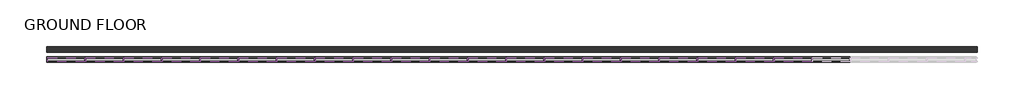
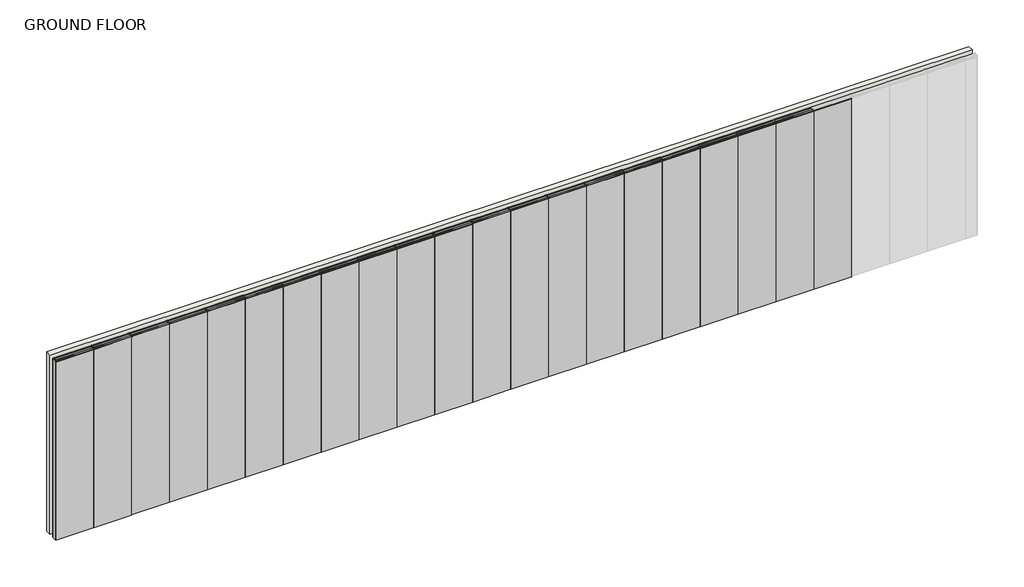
# One storey, part 1 of 2: 60 members, 21 plates, 1 wall.
"""IFC4 building model written with IfcOpenShell, lengths in millimetres."""

from ifc_helpers import new_model, si_unit, origin, origin_with_axes, place, context, project, spatial, polyline, outline, extrude, transform, mapped, element, save
from components import rectangular_mullion_stud_mullion_63mm_af775e70, rectangular_mullion_stud_mullion_63mm_2c4afd4c, rectangular_mullion_stud_mullion_63mm_ab3eab4e, rectangular_mullion_stud_mullion_63mm_08592bac, plate_2_layer_drywall_panels_2_layer_12mm_drywall_panels_e6e5b326

model = new_model("IFC4")

# Units and contexts
model_context = context("Model", 3, world=origin())
ifc_project = project(units=[si_unit("LENGTHUNIT", "METRE", prefix="MILLI")], contexts=[model_context])

# Site, building, storey
site = spatial("IfcSite", under=ifc_project)
building = spatial("IfcBuilding", under=site)
storey = spatial("IfcBuildingStorey", under=building, Name="GROUND FLOOR", Elevation=0.0)

# Members
placement = place(None, origin())
rectangular_mullion_stud_mullion_63mm_shape = rectangular_mullion_stud_mullion_63mm_af775e70(model_context)
element("IfcMember", 1, ObjectType="Rectangular Mullion : Stud Mullion - 63mm", at=placement, inside=storey, context=model_context, shape_type="MappedRepresentation", body=[
    mapped(rectangular_mullion_stud_mullion_63mm_shape, transform((61654.5186508, -25259.4010443, 0.0), x_axis=(0.0, 0.0, -1.0), y_axis=(0.0, -1.0, 0.0), z_axis=(-1.0, 0.0, 0.0))),
])
element("IfcMember", 2, ObjectType="Rectangular Mullion : Stud Mullion - 63mm", at=placement, inside=storey, context=model_context, shape_type="MappedRepresentation", body=[
    mapped(rectangular_mullion_stud_mullion_63mm_shape, transform((62254.5186511, -25259.4010443, 0.0), x_axis=(0.0, 0.0, -1.0), y_axis=(0.0, -1.0, 0.0), z_axis=(-1.0, 0.0, 0.0))),
])
element("IfcMember", 3, ObjectType="Rectangular Mullion : Stud Mullion - 63mm", at=placement, inside=storey, context=model_context, shape_type="MappedRepresentation", body=[
    mapped(rectangular_mullion_stud_mullion_63mm_shape, transform((62854.5186511, -25259.4010443, 0.0), x_axis=(0.0, 0.0, -1.0), y_axis=(0.0, -1.0, 0.0), z_axis=(-1.0, 0.0, 0.0))),
])
element("IfcMember", 4, ObjectType="Rectangular Mullion : Stud Mullion - 63mm", at=placement, inside=storey, context=model_context, shape_type="MappedRepresentation", body=[
    mapped(rectangular_mullion_stud_mullion_63mm_shape, transform((63454.5186511, -25259.4010443, 0.0), x_axis=(0.0, 0.0, -1.0), y_axis=(0.0, -1.0, 0.0), z_axis=(-1.0, 0.0, 0.0))),
])
element("IfcMember", 5, ObjectType="Rectangular Mullion : Stud Mullion - 63mm", at=placement, inside=storey, context=model_context, shape_type="MappedRepresentation", body=[
    mapped(rectangular_mullion_stud_mullion_63mm_shape, transform((64054.5186511, -25259.4010443, 0.0), x_axis=(0.0, 0.0, -1.0), y_axis=(0.0, -1.0, 0.0), z_axis=(-1.0, 0.0, 0.0))),
])
element("IfcMember", 6, ObjectType="Rectangular Mullion : Stud Mullion - 63mm", at=placement, inside=storey, context=model_context, shape_type="MappedRepresentation", body=[
    mapped(rectangular_mullion_stud_mullion_63mm_shape, transform((64654.5186511, -25259.4010443, 0.0), x_axis=(0.0, 0.0, -1.0), y_axis=(0.0, -1.0, 0.0), z_axis=(-1.0, 0.0, 0.0))),
])
element("IfcMember", 7, ObjectType="Rectangular Mullion : Stud Mullion - 63mm", at=placement, inside=storey, context=model_context, shape_type="MappedRepresentation", body=[
    mapped(rectangular_mullion_stud_mullion_63mm_shape, transform((65254.5186511, -25259.4010443, 0.0), x_axis=(0.0, 0.0, -1.0), y_axis=(0.0, -1.0, 0.0), z_axis=(-1.0, 0.0, 0.0))),
])
element("IfcMember", 8, ObjectType="Rectangular Mullion : Stud Mullion - 63mm", at=placement, inside=storey, context=model_context, shape_type="MappedRepresentation", body=[
    mapped(rectangular_mullion_stud_mullion_63mm_shape, transform((65854.5186511, -25259.4010443, 0.0), x_axis=(0.0, 0.0, -1.0), y_axis=(0.0, -1.0, 0.0), z_axis=(-1.0, 0.0, 0.0))),
])
element("IfcMember", 9, ObjectType="Rectangular Mullion : Stud Mullion - 63mm", at=placement, inside=storey, context=model_context, shape_type="MappedRepresentation", body=[
    mapped(rectangular_mullion_stud_mullion_63mm_shape, transform((66454.5186511, -25259.4010443, 0.0), x_axis=(0.0, 0.0, -1.0), y_axis=(0.0, -1.0, 0.0), z_axis=(-1.0, 0.0, 0.0))),
])
element("IfcMember", 10, ObjectType="Rectangular Mullion : Stud Mullion - 63mm", at=placement, inside=storey, context=model_context, shape_type="MappedRepresentation", body=[
    mapped(rectangular_mullion_stud_mullion_63mm_shape, transform((67054.5186511, -25259.4010443, 0.0), x_axis=(0.0, 0.0, -1.0), y_axis=(0.0, -1.0, 0.0), z_axis=(-1.0, 0.0, 0.0))),
])
element("IfcMember", 11, ObjectType="Rectangular Mullion : Stud Mullion - 63mm", at=placement, inside=storey, context=model_context, shape_type="MappedRepresentation", body=[
    mapped(rectangular_mullion_stud_mullion_63mm_shape, transform((67654.5186511, -25259.4010443, 0.0), x_axis=(0.0, 0.0, -1.0), y_axis=(0.0, -1.0, 0.0), z_axis=(-1.0, 0.0, 0.0))),
])
element("IfcMember", 12, ObjectType="Rectangular Mullion : Stud Mullion - 63mm", at=placement, inside=storey, context=model_context, shape_type="MappedRepresentation", body=[
    mapped(rectangular_mullion_stud_mullion_63mm_shape, transform((68254.5186511, -25259.4010443, 0.0), x_axis=(0.0, 0.0, -1.0), y_axis=(0.0, -1.0, 0.0), z_axis=(-1.0, 0.0, 0.0))),
])
element("IfcMember", 13, ObjectType="Rectangular Mullion : Stud Mullion - 63mm", at=placement, inside=storey, context=model_context, shape_type="MappedRepresentation", body=[
    mapped(rectangular_mullion_stud_mullion_63mm_shape, transform((68854.5186511, -25259.4010443, 0.0), x_axis=(0.0, 0.0, -1.0), y_axis=(0.0, -1.0, 0.0), z_axis=(-1.0, 0.0, 0.0))),
])
element("IfcMember", 14, ObjectType="Rectangular Mullion : Stud Mullion - 63mm", at=placement, inside=storey, context=model_context, shape_type="MappedRepresentation", body=[
    mapped(rectangular_mullion_stud_mullion_63mm_shape, transform((69454.5186511, -25259.4010443, 0.0), x_axis=(0.0, 0.0, -1.0), y_axis=(0.0, -1.0, 0.0), z_axis=(-1.0, 0.0, 0.0))),
])
element("IfcMember", 15, ObjectType="Rectangular Mullion : Stud Mullion - 63mm", at=placement, inside=storey, context=model_context, shape_type="MappedRepresentation", body=[
    mapped(rectangular_mullion_stud_mullion_63mm_shape, transform((70054.5186511, -25259.4010443, 0.0), x_axis=(0.0, 0.0, -1.0), y_axis=(0.0, -1.0, 0.0), z_axis=(-1.0, 0.0, 0.0))),
])
element("IfcMember", 16, ObjectType="Rectangular Mullion : Stud Mullion - 63mm", at=placement, inside=storey, context=model_context, shape_type="MappedRepresentation", body=[
    mapped(rectangular_mullion_stud_mullion_63mm_shape, transform((70654.5186511, -25259.4010443, 0.0), x_axis=(0.0, 0.0, -1.0), y_axis=(0.0, -1.0, 0.0), z_axis=(-1.0, 0.0, 0.0))),
])
element("IfcMember", 17, ObjectType="Rectangular Mullion : Stud Mullion - 63mm", at=placement, inside=storey, context=model_context, shape_type="MappedRepresentation", body=[
    mapped(rectangular_mullion_stud_mullion_63mm_shape, transform((71254.5186511, -25259.4010443, 0.0), x_axis=(0.0, 0.0, -1.0), y_axis=(0.0, -1.0, 0.0), z_axis=(-1.0, 0.0, 0.0))),
])
element("IfcMember", 18, ObjectType="Rectangular Mullion : Stud Mullion - 63mm", at=placement, inside=storey, context=model_context, shape_type="MappedRepresentation", body=[
    mapped(rectangular_mullion_stud_mullion_63mm_shape, transform((71854.5186511, -25259.4010443, 0.0), x_axis=(0.0, 0.0, -1.0), y_axis=(0.0, -1.0, 0.0), z_axis=(-1.0, 0.0, 0.0))),
])
element("IfcMember", 19, ObjectType="Rectangular Mullion : Stud Mullion - 63mm", at=placement, inside=storey, context=model_context, shape_type="MappedRepresentation", body=[
    mapped(rectangular_mullion_stud_mullion_63mm_shape, transform((72454.5186511, -25259.4010443, 0.0), x_axis=(0.0, 0.0, -1.0), y_axis=(0.0, -1.0, 0.0), z_axis=(-1.0, 0.0, 0.0))),
])
element("IfcMember", 20, ObjectType="Rectangular Mullion : Stud Mullion - 63mm", at=placement, inside=storey, context=model_context, shape_type="MappedRepresentation", body=[
    mapped(rectangular_mullion_stud_mullion_63mm_shape, transform((73054.5186511, -25259.4010443, 0.0), x_axis=(0.0, 0.0, -1.0), y_axis=(0.0, -1.0, 0.0), z_axis=(-1.0, 0.0, 0.0))),
])
element("IfcMember", 21, ObjectType="Rectangular Mullion : Stud Mullion - 63mm", at=placement, inside=storey, context=model_context, shape_type="MappedRepresentation", body=[
    mapped(rectangular_mullion_stud_mullion_63mm_shape, transform((73654.5186511, -25259.4010443, 0.0), x_axis=(0.0, 0.0, -1.0), y_axis=(0.0, -1.0, 0.0), z_axis=(-1.0, 0.0, 0.0))),
])
rectangular_mullion_stud_mullion_63mm_2_shape = rectangular_mullion_stud_mullion_63mm_2c4afd4c(model_context)
element("IfcMember", 22, ObjectType="Rectangular Mullion : Stud Mullion - 63mm", at=placement, inside=storey, context=model_context, shape_type="MappedRepresentation", body=[
    mapped(rectangular_mullion_stud_mullion_63mm_2_shape, transform((61635.5186508, -25259.4010443, 3000.0), x_axis=(-1.0, 0.0, 0.0), y_axis=(0.0, -1.0, 0.0), z_axis=(0.0, 0.0, 1.0))),
])
rectangular_mullion_stud_mullion_63mm_3_shape = rectangular_mullion_stud_mullion_63mm_ab3eab4e(model_context)
element("IfcMember", 23, ObjectType="Rectangular Mullion : Stud Mullion - 63mm", at=placement, inside=storey, context=model_context, shape_type="MappedRepresentation", body=[
    mapped(rectangular_mullion_stud_mullion_63mm_3_shape, transform((62235.5186511, -25259.4010443, 3000.0), x_axis=(0.0, 0.0, 1.0), y_axis=(0.0, -1.0, 0.0), z_axis=(1.0, 0.0, 0.0))),
])
element("IfcMember", 24, ObjectType="Rectangular Mullion : Stud Mullion - 63mm", at=placement, inside=storey, context=model_context, shape_type="MappedRepresentation", body=[
    mapped(rectangular_mullion_stud_mullion_63mm_3_shape, transform((62835.5186511, -25259.4010443, 3000.0), x_axis=(0.0, 0.0, 1.0), y_axis=(0.0, -1.0, 0.0), z_axis=(1.0, 0.0, 0.0))),
])
element("IfcMember", 25, ObjectType="Rectangular Mullion : Stud Mullion - 63mm", at=placement, inside=storey, context=model_context, shape_type="MappedRepresentation", body=[
    mapped(rectangular_mullion_stud_mullion_63mm_3_shape, transform((63435.5186511, -25259.4010443, 3000.0), x_axis=(0.0, 0.0, 1.0), y_axis=(0.0, -1.0, 0.0), z_axis=(1.0, 0.0, 0.0))),
])
element("IfcMember", 26, ObjectType="Rectangular Mullion : Stud Mullion - 63mm", at=placement, inside=storey, context=model_context, shape_type="MappedRepresentation", body=[
    mapped(rectangular_mullion_stud_mullion_63mm_3_shape, transform((64035.5186511, -25259.4010443, 3000.0), x_axis=(0.0, 0.0, 1.0), y_axis=(0.0, -1.0, 0.0), z_axis=(1.0, 0.0, 0.0))),
])
element("IfcMember", 27, ObjectType="Rectangular Mullion : Stud Mullion - 63mm", at=placement, inside=storey, context=model_context, shape_type="MappedRepresentation", body=[
    mapped(rectangular_mullion_stud_mullion_63mm_3_shape, transform((64635.5186511, -25259.4010443, 3000.0), x_axis=(0.0, 0.0, 1.0), y_axis=(0.0, -1.0, 0.0), z_axis=(1.0, 0.0, 0.0))),
])
element("IfcMember", 28, ObjectType="Rectangular Mullion : Stud Mullion - 63mm", at=placement, inside=storey, context=model_context, shape_type="MappedRepresentation", body=[
    mapped(rectangular_mullion_stud_mullion_63mm_3_shape, transform((65235.5186511, -25259.4010443, 3000.0), x_axis=(0.0, 0.0, 1.0), y_axis=(0.0, -1.0, 0.0), z_axis=(1.0, 0.0, 0.0))),
])
element("IfcMember", 29, ObjectType="Rectangular Mullion : Stud Mullion - 63mm", at=placement, inside=storey, context=model_context, shape_type="MappedRepresentation", body=[
    mapped(rectangular_mullion_stud_mullion_63mm_3_shape, transform((65835.5186511, -25259.4010443, 3000.0), x_axis=(0.0, 0.0, 1.0), y_axis=(0.0, -1.0, 0.0), z_axis=(1.0, 0.0, 0.0))),
])
element("IfcMember", 30, ObjectType="Rectangular Mullion : Stud Mullion - 63mm", at=placement, inside=storey, context=model_context, shape_type="MappedRepresentation", body=[
    mapped(rectangular_mullion_stud_mullion_63mm_3_shape, transform((66435.5186511, -25259.4010443, 3000.0), x_axis=(0.0, 0.0, 1.0), y_axis=(0.0, -1.0, 0.0), z_axis=(1.0, 0.0, 0.0))),
])
element("IfcMember", 31, ObjectType="Rectangular Mullion : Stud Mullion - 63mm", at=placement, inside=storey, context=model_context, shape_type="MappedRepresentation", body=[
    mapped(rectangular_mullion_stud_mullion_63mm_3_shape, transform((67035.5186511, -25259.4010443, 3000.0), x_axis=(0.0, 0.0, 1.0), y_axis=(0.0, -1.0, 0.0), z_axis=(1.0, 0.0, 0.0))),
])
element("IfcMember", 32, ObjectType="Rectangular Mullion : Stud Mullion - 63mm", at=placement, inside=storey, context=model_context, shape_type="MappedRepresentation", body=[
    mapped(rectangular_mullion_stud_mullion_63mm_3_shape, transform((67635.5186511, -25259.4010443, 3000.0), x_axis=(0.0, 0.0, 1.0), y_axis=(0.0, -1.0, 0.0), z_axis=(1.0, 0.0, 0.0))),
])
element("IfcMember", 33, ObjectType="Rectangular Mullion : Stud Mullion - 63mm", at=placement, inside=storey, context=model_context, shape_type="MappedRepresentation", body=[
    mapped(rectangular_mullion_stud_mullion_63mm_3_shape, transform((68235.5186511, -25259.4010443, 3000.0), x_axis=(0.0, 0.0, 1.0), y_axis=(0.0, -1.0, 0.0), z_axis=(1.0, 0.0, 0.0))),
])
element("IfcMember", 34, ObjectType="Rectangular Mullion : Stud Mullion - 63mm", at=placement, inside=storey, context=model_context, shape_type="MappedRepresentation", body=[
    mapped(rectangular_mullion_stud_mullion_63mm_3_shape, transform((68835.5186511, -25259.4010443, 3000.0), x_axis=(0.0, 0.0, 1.0), y_axis=(0.0, -1.0, 0.0), z_axis=(1.0, 0.0, 0.0))),
])
element("IfcMember", 35, ObjectType="Rectangular Mullion : Stud Mullion - 63mm", at=placement, inside=storey, context=model_context, shape_type="MappedRepresentation", body=[
    mapped(rectangular_mullion_stud_mullion_63mm_3_shape, transform((69435.5186511, -25259.4010443, 3000.0), x_axis=(0.0, 0.0, 1.0), y_axis=(0.0, -1.0, 0.0), z_axis=(1.0, 0.0, 0.0))),
])
element("IfcMember", 36, ObjectType="Rectangular Mullion : Stud Mullion - 63mm", at=placement, inside=storey, context=model_context, shape_type="MappedRepresentation", body=[
    mapped(rectangular_mullion_stud_mullion_63mm_3_shape, transform((70035.5186511, -25259.4010443, 3000.0), x_axis=(0.0, 0.0, 1.0), y_axis=(0.0, -1.0, 0.0), z_axis=(1.0, 0.0, 0.0))),
])
element("IfcMember", 37, ObjectType="Rectangular Mullion : Stud Mullion - 63mm", at=placement, inside=storey, context=model_context, shape_type="MappedRepresentation", body=[
    mapped(rectangular_mullion_stud_mullion_63mm_3_shape, transform((70635.5186511, -25259.4010443, 3000.0), x_axis=(0.0, 0.0, 1.0), y_axis=(0.0, -1.0, 0.0), z_axis=(1.0, 0.0, 0.0))),
])
element("IfcMember", 38, ObjectType="Rectangular Mullion : Stud Mullion - 63mm", at=placement, inside=storey, context=model_context, shape_type="MappedRepresentation", body=[
    mapped(rectangular_mullion_stud_mullion_63mm_3_shape, transform((71235.5186511, -25259.4010443, 3000.0), x_axis=(0.0, 0.0, 1.0), y_axis=(0.0, -1.0, 0.0), z_axis=(1.0, 0.0, 0.0))),
])
element("IfcMember", 39, ObjectType="Rectangular Mullion : Stud Mullion - 63mm", at=placement, inside=storey, context=model_context, shape_type="MappedRepresentation", body=[
    mapped(rectangular_mullion_stud_mullion_63mm_3_shape, transform((71835.5186511, -25259.4010443, 3000.0), x_axis=(0.0, 0.0, 1.0), y_axis=(0.0, -1.0, 0.0), z_axis=(1.0, 0.0, 0.0))),
])
element("IfcMember", 40, ObjectType="Rectangular Mullion : Stud Mullion - 63mm", at=placement, inside=storey, context=model_context, shape_type="MappedRepresentation", body=[
    mapped(rectangular_mullion_stud_mullion_63mm_3_shape, transform((72435.5186511, -25259.4010443, 3000.0), x_axis=(0.0, 0.0, 1.0), y_axis=(0.0, -1.0, 0.0), z_axis=(1.0, 0.0, 0.0))),
])
element("IfcMember", 41, ObjectType="Rectangular Mullion : Stud Mullion - 63mm", at=placement, inside=storey, context=model_context, shape_type="MappedRepresentation", body=[
    mapped(rectangular_mullion_stud_mullion_63mm_3_shape, transform((73035.5186511, -25259.4010443, 3000.0), x_axis=(0.0, 0.0, 1.0), y_axis=(0.0, -1.0, 0.0), z_axis=(1.0, 0.0, 0.0))),
])
element("IfcMember", 42, ObjectType="Rectangular Mullion : Stud Mullion - 63mm", at=placement, inside=storey, context=model_context, shape_type="MappedRepresentation", body=[
    mapped(rectangular_mullion_stud_mullion_63mm_3_shape, transform((73635.5186511, -25259.4010443, 3000.0), x_axis=(0.0, 0.0, 1.0), y_axis=(0.0, -1.0, 0.0), z_axis=(1.0, 0.0, 0.0))),
])
rectangular_mullion_stud_mullion_63mm_4_shape = rectangular_mullion_stud_mullion_63mm_08592bac(model_context)
element("IfcMember", 43, ObjectType="Rectangular Mullion : Stud Mullion - 63mm", at=placement, inside=storey, context=model_context, shape_type="MappedRepresentation", body=[
    mapped(rectangular_mullion_stud_mullion_63mm_4_shape, transform((62245.0186511, -25259.4010443, 0.0), x_axis=(1.0, 0.0, 0.0), y_axis=(0.0, -1.0, 0.0), z_axis=(0.0, 0.0, -1.0))),
])
element("IfcMember", 44, ObjectType="Rectangular Mullion : Stud Mullion - 63mm", at=placement, inside=storey, context=model_context, shape_type="MappedRepresentation", body=[
    mapped(rectangular_mullion_stud_mullion_63mm_4_shape, transform((62845.0186511, -25259.4010443, 0.0), x_axis=(1.0, 0.0, 0.0), y_axis=(0.0, -1.0, 0.0), z_axis=(0.0, 0.0, -1.0))),
])
element("IfcMember", 45, ObjectType="Rectangular Mullion : Stud Mullion - 63mm", at=placement, inside=storey, context=model_context, shape_type="MappedRepresentation", body=[
    mapped(rectangular_mullion_stud_mullion_63mm_4_shape, transform((63445.0186511, -25259.4010443, 0.0), x_axis=(1.0, 0.0, 0.0), y_axis=(0.0, -1.0, 0.0), z_axis=(0.0, 0.0, -1.0))),
])
element("IfcMember", 46, ObjectType="Rectangular Mullion : Stud Mullion - 63mm", at=placement, inside=storey, context=model_context, shape_type="MappedRepresentation", body=[
    mapped(rectangular_mullion_stud_mullion_63mm_4_shape, transform((64045.0186511, -25259.4010443, 0.0), x_axis=(1.0, 0.0, 0.0), y_axis=(0.0, -1.0, 0.0), z_axis=(0.0, 0.0, -1.0))),
])
element("IfcMember", 47, ObjectType="Rectangular Mullion : Stud Mullion - 63mm", at=placement, inside=storey, context=model_context, shape_type="MappedRepresentation", body=[
    mapped(rectangular_mullion_stud_mullion_63mm_4_shape, transform((64645.0186511, -25259.4010443, 0.0), x_axis=(1.0, 0.0, 0.0), y_axis=(0.0, -1.0, 0.0), z_axis=(0.0, 0.0, -1.0))),
])
element("IfcMember", 48, ObjectType="Rectangular Mullion : Stud Mullion - 63mm", at=placement, inside=storey, context=model_context, shape_type="MappedRepresentation", body=[
    mapped(rectangular_mullion_stud_mullion_63mm_4_shape, transform((65245.0186511, -25259.4010443, 0.0), x_axis=(1.0, 0.0, 0.0), y_axis=(0.0, -1.0, 0.0), z_axis=(0.0, 0.0, -1.0))),
])
element("IfcMember", 49, ObjectType="Rectangular Mullion : Stud Mullion - 63mm", at=placement, inside=storey, context=model_context, shape_type="MappedRepresentation", body=[
    mapped(rectangular_mullion_stud_mullion_63mm_4_shape, transform((65845.0186511, -25259.4010443, 0.0), x_axis=(1.0, 0.0, 0.0), y_axis=(0.0, -1.0, 0.0), z_axis=(0.0, 0.0, -1.0))),
])
element("IfcMember", 50, ObjectType="Rectangular Mullion : Stud Mullion - 63mm", at=placement, inside=storey, context=model_context, shape_type="MappedRepresentation", body=[
    mapped(rectangular_mullion_stud_mullion_63mm_4_shape, transform((66445.0186511, -25259.4010443, 0.0), x_axis=(1.0, 0.0, 0.0), y_axis=(0.0, -1.0, 0.0), z_axis=(0.0, 0.0, -1.0))),
])
element("IfcMember", 51, ObjectType="Rectangular Mullion : Stud Mullion - 63mm", at=placement, inside=storey, context=model_context, shape_type="MappedRepresentation", body=[
    mapped(rectangular_mullion_stud_mullion_63mm_4_shape, transform((67045.0186511, -25259.4010443, 0.0), x_axis=(1.0, 0.0, 0.0), y_axis=(0.0, -1.0, 0.0), z_axis=(0.0, 0.0, -1.0))),
])
element("IfcMember", 52, ObjectType="Rectangular Mullion : Stud Mullion - 63mm", at=placement, inside=storey, context=model_context, shape_type="MappedRepresentation", body=[
    mapped(rectangular_mullion_stud_mullion_63mm_4_shape, transform((67645.0186511, -25259.4010443, 0.0), x_axis=(1.0, 0.0, 0.0), y_axis=(0.0, -1.0, 0.0), z_axis=(0.0, 0.0, -1.0))),
])
element("IfcMember", 53, ObjectType="Rectangular Mullion : Stud Mullion - 63mm", at=placement, inside=storey, context=model_context, shape_type="MappedRepresentation", body=[
    mapped(rectangular_mullion_stud_mullion_63mm_4_shape, transform((68245.0186511, -25259.4010443, 0.0), x_axis=(1.0, 0.0, 0.0), y_axis=(0.0, -1.0, 0.0), z_axis=(0.0, 0.0, -1.0))),
])
element("IfcMember", 54, ObjectType="Rectangular Mullion : Stud Mullion - 63mm", at=placement, inside=storey, context=model_context, shape_type="MappedRepresentation", body=[
    mapped(rectangular_mullion_stud_mullion_63mm_4_shape, transform((68845.0186511, -25259.4010443, 0.0), x_axis=(1.0, 0.0, 0.0), y_axis=(0.0, -1.0, 0.0), z_axis=(0.0, 0.0, -1.0))),
])
element("IfcMember", 55, ObjectType="Rectangular Mullion : Stud Mullion - 63mm", at=placement, inside=storey, context=model_context, shape_type="MappedRepresentation", body=[
    mapped(rectangular_mullion_stud_mullion_63mm_4_shape, transform((69445.0186511, -25259.4010443, 0.0), x_axis=(1.0, 0.0, 0.0), y_axis=(0.0, -1.0, 0.0), z_axis=(0.0, 0.0, -1.0))),
])
element("IfcMember", 56, ObjectType="Rectangular Mullion : Stud Mullion - 63mm", at=placement, inside=storey, context=model_context, shape_type="MappedRepresentation", body=[
    mapped(rectangular_mullion_stud_mullion_63mm_4_shape, transform((70045.0186511, -25259.4010443, 0.0), x_axis=(1.0, 0.0, 0.0), y_axis=(0.0, -1.0, 0.0), z_axis=(0.0, 0.0, -1.0))),
])
element("IfcMember", 57, ObjectType="Rectangular Mullion : Stud Mullion - 63mm", at=placement, inside=storey, context=model_context, shape_type="MappedRepresentation", body=[
    mapped(rectangular_mullion_stud_mullion_63mm_4_shape, transform((70645.0186511, -25259.4010443, 0.0), x_axis=(1.0, 0.0, 0.0), y_axis=(0.0, -1.0, 0.0), z_axis=(0.0, 0.0, -1.0))),
])
element("IfcMember", 58, ObjectType="Rectangular Mullion : Stud Mullion - 63mm", at=placement, inside=storey, context=model_context, shape_type="MappedRepresentation", body=[
    mapped(rectangular_mullion_stud_mullion_63mm_4_shape, transform((71245.0186511, -25259.4010443, 0.0), x_axis=(1.0, 0.0, 0.0), y_axis=(0.0, -1.0, 0.0), z_axis=(0.0, 0.0, -1.0))),
])
element("IfcMember", 59, ObjectType="Rectangular Mullion : Stud Mullion - 63mm", at=placement, inside=storey, context=model_context, shape_type="MappedRepresentation", body=[
    mapped(rectangular_mullion_stud_mullion_63mm_4_shape, transform((71845.0186511, -25259.4010443, 0.0), x_axis=(1.0, 0.0, 0.0), y_axis=(0.0, -1.0, 0.0), z_axis=(0.0, 0.0, -1.0))),
])
element("IfcMember", 60, ObjectType="Rectangular Mullion : Stud Mullion - 63mm", at=placement, inside=storey, context=model_context, shape_type="MappedRepresentation", body=[
    mapped(rectangular_mullion_stud_mullion_63mm_4_shape, transform((72445.0186511, -25259.4010443, 0.0), x_axis=(1.0, 0.0, 0.0), y_axis=(0.0, -1.0, 0.0), z_axis=(0.0, 0.0, -1.0))),
])

# Plates
plate_2_layer_drywall_panels_2_layer_12mm_drywall_panels_shape = plate_2_layer_drywall_panels_2_layer_12mm_drywall_panels_e6e5b326(model_context)
element("IfcPlate", 61, ObjectType="2 Layer - Drywall Panels : 2 Layer - 12mm Drywall Panels 89mm", at=placement, inside=storey, context=model_context, shape_type="MappedRepresentation", body=[
    mapped(plate_2_layer_drywall_panels_2_layer_12mm_drywall_panels_shape, transform((61936.318651, -25259.4010443, 1.6), x_axis=(1.0, 0.0, 0.0), y_axis=(0.0, 1.0, 0.0), z_axis=(0.0, 0.0, 1.0))),
])
element("IfcPlate", 62, ObjectType="2 Layer - Drywall Panels : 2 Layer - 12mm Drywall Panels 89mm", at=placement, inside=storey, context=model_context, shape_type="MappedRepresentation", body=[
    mapped(plate_2_layer_drywall_panels_2_layer_12mm_drywall_panels_shape, transform((62536.3186511, -25259.4010443, 1.6), x_axis=(1.0, 0.0, 0.0), y_axis=(0.0, 1.0, 0.0), z_axis=(0.0, 0.0, 1.0))),
])
element("IfcPlate", 63, ObjectType="2 Layer - Drywall Panels : 2 Layer - 12mm Drywall Panels 89mm", at=placement, inside=storey, context=model_context, shape_type="MappedRepresentation", body=[
    mapped(plate_2_layer_drywall_panels_2_layer_12mm_drywall_panels_shape, transform((63136.3186511, -25259.4010443, 1.6), x_axis=(1.0, 0.0, 0.0), y_axis=(0.0, 1.0, 0.0), z_axis=(0.0, 0.0, 1.0))),
])
element("IfcPlate", 64, ObjectType="2 Layer - Drywall Panels : 2 Layer - 12mm Drywall Panels 89mm", at=placement, inside=storey, context=model_context, shape_type="MappedRepresentation", body=[
    mapped(plate_2_layer_drywall_panels_2_layer_12mm_drywall_panels_shape, transform((63736.3186511, -25259.4010443, 1.6), x_axis=(1.0, 0.0, 0.0), y_axis=(0.0, 1.0, 0.0), z_axis=(0.0, 0.0, 1.0))),
])
element("IfcPlate", 65, ObjectType="2 Layer - Drywall Panels : 2 Layer - 12mm Drywall Panels 89mm", at=placement, inside=storey, context=model_context, shape_type="MappedRepresentation", body=[
    mapped(plate_2_layer_drywall_panels_2_layer_12mm_drywall_panels_shape, transform((64336.3186511, -25259.4010443, 1.6), x_axis=(1.0, 0.0, 0.0), y_axis=(0.0, 1.0, 0.0), z_axis=(0.0, 0.0, 1.0))),
])
element("IfcPlate", 66, ObjectType="2 Layer - Drywall Panels : 2 Layer - 12mm Drywall Panels 89mm", at=placement, inside=storey, context=model_context, shape_type="MappedRepresentation", body=[
    mapped(plate_2_layer_drywall_panels_2_layer_12mm_drywall_panels_shape, transform((64936.3186511, -25259.4010443, 1.6), x_axis=(1.0, 0.0, 0.0), y_axis=(0.0, 1.0, 0.0), z_axis=(0.0, 0.0, 1.0))),
])
element("IfcPlate", 67, ObjectType="2 Layer - Drywall Panels : 2 Layer - 12mm Drywall Panels 89mm", at=placement, inside=storey, context=model_context, shape_type="MappedRepresentation", body=[
    mapped(plate_2_layer_drywall_panels_2_layer_12mm_drywall_panels_shape, transform((65536.3186511, -25259.4010443, 1.6), x_axis=(1.0, 0.0, 0.0), y_axis=(0.0, 1.0, 0.0), z_axis=(0.0, 0.0, 1.0))),
])
element("IfcPlate", 68, ObjectType="2 Layer - Drywall Panels : 2 Layer - 12mm Drywall Panels 89mm", at=placement, inside=storey, context=model_context, shape_type="MappedRepresentation", body=[
    mapped(plate_2_layer_drywall_panels_2_layer_12mm_drywall_panels_shape, transform((66136.3186511, -25259.4010443, 1.6), x_axis=(1.0, 0.0, 0.0), y_axis=(0.0, 1.0, 0.0), z_axis=(0.0, 0.0, 1.0))),
])
element("IfcPlate", 69, ObjectType="2 Layer - Drywall Panels : 2 Layer - 12mm Drywall Panels 89mm", at=placement, inside=storey, context=model_context, shape_type="MappedRepresentation", body=[
    mapped(plate_2_layer_drywall_panels_2_layer_12mm_drywall_panels_shape, transform((66736.3186511, -25259.4010443, 1.6), x_axis=(1.0, 0.0, 0.0), y_axis=(0.0, 1.0, 0.0), z_axis=(0.0, 0.0, 1.0))),
])
element("IfcPlate", 70, ObjectType="2 Layer - Drywall Panels : 2 Layer - 12mm Drywall Panels 89mm", at=placement, inside=storey, context=model_context, shape_type="MappedRepresentation", body=[
    mapped(plate_2_layer_drywall_panels_2_layer_12mm_drywall_panels_shape, transform((67336.3186511, -25259.4010443, 1.6), x_axis=(1.0, 0.0, 0.0), y_axis=(0.0, 1.0, 0.0), z_axis=(0.0, 0.0, 1.0))),
])
element("IfcPlate", 71, ObjectType="2 Layer - Drywall Panels : 2 Layer - 12mm Drywall Panels 89mm", at=placement, inside=storey, context=model_context, shape_type="MappedRepresentation", body=[
    mapped(plate_2_layer_drywall_panels_2_layer_12mm_drywall_panels_shape, transform((67936.3186511, -25259.4010443, 1.6), x_axis=(1.0, 0.0, 0.0), y_axis=(0.0, 1.0, 0.0), z_axis=(0.0, 0.0, 1.0))),
])
element("IfcPlate", 72, ObjectType="2 Layer - Drywall Panels : 2 Layer - 12mm Drywall Panels 89mm", at=placement, inside=storey, context=model_context, shape_type="MappedRepresentation", body=[
    mapped(plate_2_layer_drywall_panels_2_layer_12mm_drywall_panels_shape, transform((68536.3186511, -25259.4010443, 1.6), x_axis=(1.0, 0.0, 0.0), y_axis=(0.0, 1.0, 0.0), z_axis=(0.0, 0.0, 1.0))),
])
element("IfcPlate", 73, ObjectType="2 Layer - Drywall Panels : 2 Layer - 12mm Drywall Panels 89mm", at=placement, inside=storey, context=model_context, shape_type="MappedRepresentation", body=[
    mapped(plate_2_layer_drywall_panels_2_layer_12mm_drywall_panels_shape, transform((69136.3186511, -25259.4010443, 1.6), x_axis=(1.0, 0.0, 0.0), y_axis=(0.0, 1.0, 0.0), z_axis=(0.0, 0.0, 1.0))),
])
element("IfcPlate", 74, ObjectType="2 Layer - Drywall Panels : 2 Layer - 12mm Drywall Panels 89mm", at=placement, inside=storey, context=model_context, shape_type="MappedRepresentation", body=[
    mapped(plate_2_layer_drywall_panels_2_layer_12mm_drywall_panels_shape, transform((69736.3186511, -25259.4010443, 1.6), x_axis=(1.0, 0.0, 0.0), y_axis=(0.0, 1.0, 0.0), z_axis=(0.0, 0.0, 1.0))),
])
element("IfcPlate", 75, ObjectType="2 Layer - Drywall Panels : 2 Layer - 12mm Drywall Panels 89mm", at=placement, inside=storey, context=model_context, shape_type="MappedRepresentation", body=[
    mapped(plate_2_layer_drywall_panels_2_layer_12mm_drywall_panels_shape, transform((70336.3186511, -25259.4010443, 1.6), x_axis=(1.0, 0.0, 0.0), y_axis=(0.0, 1.0, 0.0), z_axis=(0.0, 0.0, 1.0))),
])
element("IfcPlate", 76, ObjectType="2 Layer - Drywall Panels : 2 Layer - 12mm Drywall Panels 89mm", at=placement, inside=storey, context=model_context, shape_type="MappedRepresentation", body=[
    mapped(plate_2_layer_drywall_panels_2_layer_12mm_drywall_panels_shape, transform((70936.3186511, -25259.4010443, 1.6), x_axis=(1.0, 0.0, 0.0), y_axis=(0.0, 1.0, 0.0), z_axis=(0.0, 0.0, 1.0))),
])
element("IfcPlate", 77, ObjectType="2 Layer - Drywall Panels : 2 Layer - 12mm Drywall Panels 89mm", at=placement, inside=storey, context=model_context, shape_type="MappedRepresentation", body=[
    mapped(plate_2_layer_drywall_panels_2_layer_12mm_drywall_panels_shape, transform((71536.3186511, -25259.4010443, 1.6), x_axis=(1.0, 0.0, 0.0), y_axis=(0.0, 1.0, 0.0), z_axis=(0.0, 0.0, 1.0))),
])
element("IfcPlate", 78, ObjectType="2 Layer - Drywall Panels : 2 Layer - 12mm Drywall Panels 89mm", at=placement, inside=storey, context=model_context, shape_type="MappedRepresentation", body=[
    mapped(plate_2_layer_drywall_panels_2_layer_12mm_drywall_panels_shape, transform((72136.3186511, -25259.4010443, 1.6), x_axis=(1.0, 0.0, 0.0), y_axis=(0.0, 1.0, 0.0), z_axis=(0.0, 0.0, 1.0))),
])
element("IfcPlate", 79, ObjectType="2 Layer - Drywall Panels : 2 Layer - 12mm Drywall Panels 89mm", at=placement, inside=storey, context=model_context, shape_type="MappedRepresentation", body=[
    mapped(plate_2_layer_drywall_panels_2_layer_12mm_drywall_panels_shape, transform((72736.3186511, -25259.4010443, 1.6), x_axis=(1.0, 0.0, 0.0), y_axis=(0.0, 1.0, 0.0), z_axis=(0.0, 0.0, 1.0))),
])
element("IfcPlate", 80, ObjectType="2 Layer - Drywall Panels : 2 Layer - 12mm Drywall Panels 89mm", at=placement, inside=storey, context=model_context, shape_type="MappedRepresentation", body=[
    mapped(plate_2_layer_drywall_panels_2_layer_12mm_drywall_panels_shape, transform((73336.3186511, -25259.4010443, 1.6), x_axis=(1.0, 0.0, 0.0), y_axis=(0.0, 1.0, 0.0), z_axis=(0.0, 0.0, 1.0))),
])
element("IfcPlate", 81, ObjectType="2 Layer - Drywall Panels : 2 Layer - 12mm Drywall Panels 89mm", at=placement, inside=storey, context=model_context, shape_type="MappedRepresentation", body=[
    mapped(plate_2_layer_drywall_panels_2_layer_12mm_drywall_panels_shape, transform((73936.3186511, -25259.4010443, 1.6), x_axis=(1.0, 0.0, 0.0), y_axis=(0.0, 1.0, 0.0), z_axis=(0.0, 0.0, 1.0))),
])

# Wall
element("IfcWall", 82, ObjectType="PW06 - JUMBO MoistureWALL 63/30", at=placement, inside=storey, context=model_context, shape_type="SweptSolid", body=[
    extrude(outline(polyline([(76235.5186508, -25143.9010443), (61635.5186508, -25143.9010443), (61635.5186508, -25054.9010443), (76235.5186508, -25054.9010443), (76235.5186508, -25143.9010443)])), origin_with_axes(), (0.0, 0.0, 1.0), 3000.0),
])

save(model, "model.ifc")
